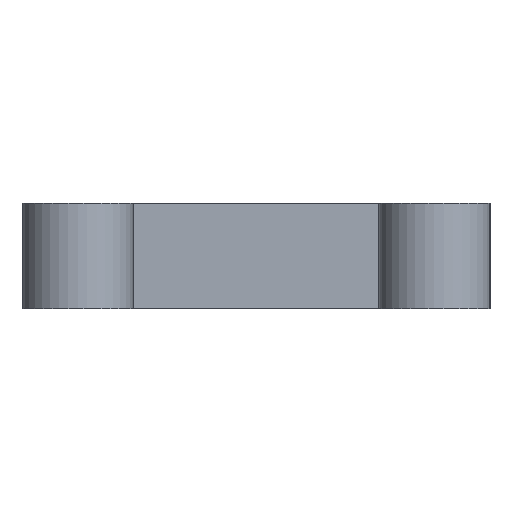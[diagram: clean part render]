
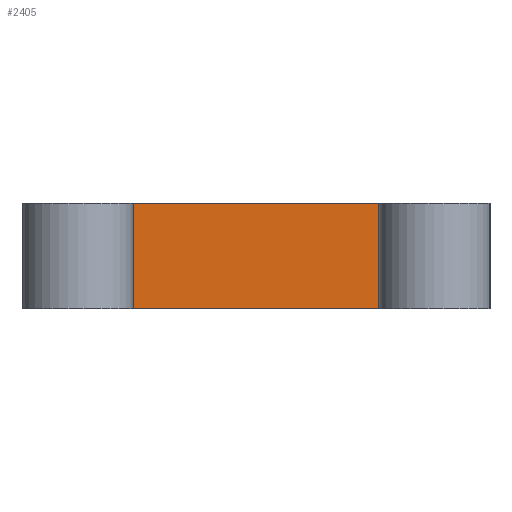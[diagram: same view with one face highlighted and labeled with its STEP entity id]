
A CAD part, left-side view. The second image highlights one B-rep face of the part: STEP entity #2405.
In plain terms, the highlighted planar face has unit normal (-1, 0, 0).
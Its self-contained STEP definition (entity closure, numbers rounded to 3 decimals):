
#24 = VERTEX_POINT('',#25);
#25 = CARTESIAN_POINT('',(-1.05,9.85,9.5));
#32 = PLANE('',#33);
#33 = AXIS2_PLACEMENT_3D('',#34,#35,#36);
#34 = CARTESIAN_POINT('',(-1.05,-0.15,9.5));
#35 = DIRECTION('',(0.,0.,1.));
#36 = DIRECTION('',(1.,0.,-0.));
#44 = PLANE('',#45);
#45 = AXIS2_PLACEMENT_3D('',#46,#47,#48);
#46 = CARTESIAN_POINT('',(-5.55,9.85,0.));
#47 = DIRECTION('',(0.,1.,0.));
#48 = DIRECTION('',(0.,-0.,1.));
#313 = VERTEX_POINT('',#314);
#314 = CARTESIAN_POINT('',(-1.05,31.95,9.5));
#328 = PLANE('',#329);
#329 = AXIS2_PLACEMENT_3D('',#330,#331,#332);
#330 = CARTESIAN_POINT('',(-5.55,31.95,0.));
#331 = DIRECTION('',(0.,1.,0.));
#332 = DIRECTION('',(0.,-0.,1.));
#340 = EDGE_CURVE('',#313,#24,#341,.T.);
#341 = SURFACE_CURVE('',#342,(#346,#353),.PCURVE_S1.);
#342 = LINE('',#343,#344);
#343 = CARTESIAN_POINT('',(-1.05,31.95,9.5));
#344 = VECTOR('',#345,1.);
#345 = DIRECTION('',(0.,-1.,0.));
#346 = PCURVE('',#32,#347);
#347 = DEFINITIONAL_REPRESENTATION('',(#348),#352);
#348 = LINE('',#349,#350);
#349 = CARTESIAN_POINT('',(0.,32.1));
#350 = VECTOR('',#351,1.);
#351 = DIRECTION('',(0.,-1.));
#352 = ( GEOMETRIC_REPRESENTATION_CONTEXT(2) 
PARAMETRIC_REPRESENTATION_CONTEXT() REPRESENTATION_CONTEXT('2D SPACE',''
  ) );
#353 = PCURVE('',#354,#359);
#354 = PLANE('',#355);
#355 = AXIS2_PLACEMENT_3D('',#356,#357,#358);
#356 = CARTESIAN_POINT('',(-1.05,-0.15,0.));
#357 = DIRECTION('',(1.,0.,0.));
#358 = DIRECTION('',(0.,0.,1.));
#359 = DEFINITIONAL_REPRESENTATION('',(#360),#364);
#360 = LINE('',#361,#362);
#361 = CARTESIAN_POINT('',(9.5,-32.1));
#362 = VECTOR('',#363,1.);
#363 = DIRECTION('',(0.,1.));
#364 = ( GEOMETRIC_REPRESENTATION_CONTEXT(2) 
PARAMETRIC_REPRESENTATION_CONTEXT() REPRESENTATION_CONTEXT('2D SPACE',''
  ) );
#2336 = VERTEX_POINT('',#2337);
#2337 = CARTESIAN_POINT('',(-1.05,9.85,0.));
#2351 = PLANE('',#2352);
#2352 = AXIS2_PLACEMENT_3D('',#2353,#2354,#2355);
#2353 = CARTESIAN_POINT('',(-1.05,-0.15,0.));
#2354 = DIRECTION('',(0.,0.,1.));
#2355 = DIRECTION('',(1.,0.,-0.));
#2385 = EDGE_CURVE('',#2336,#24,#2386,.T.);
#2386 = SURFACE_CURVE('',#2387,(#2391,#2398),.PCURVE_S1.);
#2387 = LINE('',#2388,#2389);
#2388 = CARTESIAN_POINT('',(-1.05,9.85,0.));
#2389 = VECTOR('',#2390,1.);
#2390 = DIRECTION('',(0.,0.,1.));
#2391 = PCURVE('',#44,#2392);
#2392 = DEFINITIONAL_REPRESENTATION('',(#2393),#2397);
#2393 = LINE('',#2394,#2395);
#2394 = CARTESIAN_POINT('',(0.,4.5));
#2395 = VECTOR('',#2396,1.);
#2396 = DIRECTION('',(1.,0.));
#2397 = ( GEOMETRIC_REPRESENTATION_CONTEXT(2) 
PARAMETRIC_REPRESENTATION_CONTEXT() REPRESENTATION_CONTEXT('2D SPACE',''
  ) );
#2398 = PCURVE('',#354,#2399);
#2399 = DEFINITIONAL_REPRESENTATION('',(#2400),#2404);
#2400 = LINE('',#2401,#2402);
#2401 = CARTESIAN_POINT('',(0.,-10.));
#2402 = VECTOR('',#2403,1.);
#2403 = DIRECTION('',(1.,0.));
#2404 = ( GEOMETRIC_REPRESENTATION_CONTEXT(2) 
PARAMETRIC_REPRESENTATION_CONTEXT() REPRESENTATION_CONTEXT('2D SPACE',''
  ) );
#2405 = ADVANCED_FACE('',(#2406),#354,.F.);
#2406 = FACE_BOUND('',#2407,.F.);
#2407 = EDGE_LOOP('',(#2408,#2409,#2432,#2453));
#2408 = ORIENTED_EDGE('',*,*,#2385,.F.);
#2409 = ORIENTED_EDGE('',*,*,#2410,.F.);
#2410 = EDGE_CURVE('',#2411,#2336,#2413,.T.);
#2411 = VERTEX_POINT('',#2412);
#2412 = CARTESIAN_POINT('',(-1.05,31.95,0.));
#2413 = SURFACE_CURVE('',#2414,(#2418,#2425),.PCURVE_S1.);
#2414 = LINE('',#2415,#2416);
#2415 = CARTESIAN_POINT('',(-1.05,31.95,0.));
#2416 = VECTOR('',#2417,1.);
#2417 = DIRECTION('',(0.,-1.,0.));
#2418 = PCURVE('',#354,#2419);
#2419 = DEFINITIONAL_REPRESENTATION('',(#2420),#2424);
#2420 = LINE('',#2421,#2422);
#2421 = CARTESIAN_POINT('',(0.,-32.1));
#2422 = VECTOR('',#2423,1.);
#2423 = DIRECTION('',(0.,1.));
#2424 = ( GEOMETRIC_REPRESENTATION_CONTEXT(2) 
PARAMETRIC_REPRESENTATION_CONTEXT() REPRESENTATION_CONTEXT('2D SPACE',''
  ) );
#2425 = PCURVE('',#2351,#2426);
#2426 = DEFINITIONAL_REPRESENTATION('',(#2427),#2431);
#2427 = LINE('',#2428,#2429);
#2428 = CARTESIAN_POINT('',(0.,32.1));
#2429 = VECTOR('',#2430,1.);
#2430 = DIRECTION('',(0.,-1.));
#2431 = ( GEOMETRIC_REPRESENTATION_CONTEXT(2) 
PARAMETRIC_REPRESENTATION_CONTEXT() REPRESENTATION_CONTEXT('2D SPACE',''
  ) );
#2432 = ORIENTED_EDGE('',*,*,#2433,.T.);
#2433 = EDGE_CURVE('',#2411,#313,#2434,.T.);
#2434 = SURFACE_CURVE('',#2435,(#2439,#2446),.PCURVE_S1.);
#2435 = LINE('',#2436,#2437);
#2436 = CARTESIAN_POINT('',(-1.05,31.95,0.));
#2437 = VECTOR('',#2438,1.);
#2438 = DIRECTION('',(0.,0.,1.));
#2439 = PCURVE('',#354,#2440);
#2440 = DEFINITIONAL_REPRESENTATION('',(#2441),#2445);
#2441 = LINE('',#2442,#2443);
#2442 = CARTESIAN_POINT('',(0.,-32.1));
#2443 = VECTOR('',#2444,1.);
#2444 = DIRECTION('',(1.,0.));
#2445 = ( GEOMETRIC_REPRESENTATION_CONTEXT(2) 
PARAMETRIC_REPRESENTATION_CONTEXT() REPRESENTATION_CONTEXT('2D SPACE',''
  ) );
#2446 = PCURVE('',#328,#2447);
#2447 = DEFINITIONAL_REPRESENTATION('',(#2448),#2452);
#2448 = LINE('',#2449,#2450);
#2449 = CARTESIAN_POINT('',(0.,4.5));
#2450 = VECTOR('',#2451,1.);
#2451 = DIRECTION('',(1.,0.));
#2452 = ( GEOMETRIC_REPRESENTATION_CONTEXT(2) 
PARAMETRIC_REPRESENTATION_CONTEXT() REPRESENTATION_CONTEXT('2D SPACE',''
  ) );
#2453 = ORIENTED_EDGE('',*,*,#340,.T.);
